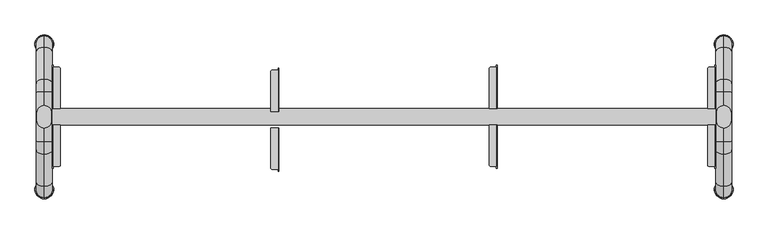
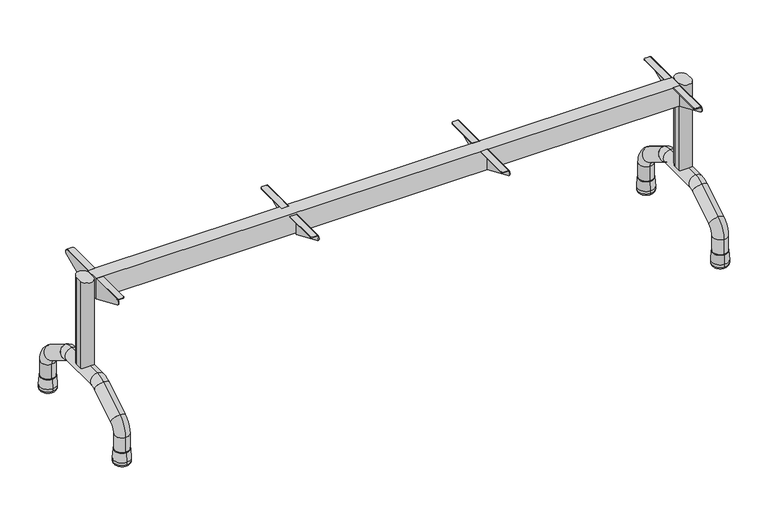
"""IFC4 building model written with IfcOpenShell, lengths in millimetres: furniture geometry, Banco para refeitório : Banco para refeitório 180x30cm cód 40471.6."""

from ifc_helpers import new_model, si_unit, point, frame, frame_2d, origin, place, context, project, spatial, polyline, circle_curve, ellipse_curve, trimmed, segment, composite_curve, outline, extrude, source, transform, mapped, element, save
from ifc_brep_helpers import plane_surface, cylinder_surface, revolved_surface, advanced_brep


def furniture_a52aa003(model_context):
    return source(origin(), model_context, "Body", "SolidModel", [
        extrude(outline(composite_curve([segment(trimmed(circle_curve(frame_2d((-840.0, -9.5)), 18.0), [point((-822.0, -9.5))], [point((-858.0, -9.5))], False, "CARTESIAN"), True, "CONTINUOUS"), segment(polyline([(-858.0, -9.5), (-858.0, 9.5)]), True, "CONTINUOUS"), segment(trimmed(circle_curve(frame_2d((-840.0, 9.5)), 18.0), [point((-858.0, 9.5))], [point((-822.0, 9.5))], False, "CARTESIAN"), True, "CONTINUOUS"), segment(polyline([(-822.0, 9.5), (-822.0, -9.5)]), True, "CONTINUOUS")], self_intersect=False)), frame((0.0, 0.0, 175.0), z_axis=(0.0, 0.0, 1.0), x_axis=(1.0, 0.0, 0.0)), (0.0, 0.0, 1.0), 267.0),
        advanced_brep(
        [(-840.0, -160.0, 43.1183008), (-840.0, -200.0, 43.1183008), (-840.0, -160.0, 86.179057), (-840.0, -200.0, 86.179057), (-840.0, -171.6393713, 137.1589568), (-840.0, -150.5464571, 103.1723569), (-840.0, -71.882227, 151.9932999), (-840.0, -92.9751412, 185.9798998), (-840.0, -61.3357699, 195.0), (-840.0, -61.3357699, 155.0), (-840.0, 61.3357699, 155.0), (-840.0, 61.3357699, 195.0), (-840.0, 160.0, 43.1183008), (-840.0, 200.0, 43.1183008), (-840.0, 92.9751412, 185.9798998), (-840.0, 71.882227, 151.9932999), (-840.0, 150.5464571, 103.1723569), (-840.0, 171.6393713, 137.1589568), (-840.0, 200.0, 86.179057), (-840.0, 160.0, 86.179057)],
        [
            (0, 1, circle_curve(frame((-840.0, -180.0, 43.1183008), z_axis=(0.0, 0.0, -1.0), x_axis=(0.0, -1.0, 0.0)), 20.0)),
            (1, 0, circle_curve(frame((-840.0, -180.0, 43.1183008), z_axis=(0.0, 0.0, -1.0), x_axis=(0.0, -1.0, 0.0)), 20.0)),
            (0, 2),
            (2, 3, circle_curve(frame((-840.0, -180.0, 86.179057), z_axis=(0.0, 0.0, -1.0), x_axis=(0.0, -1.0, 0.0)), 20.0)),
            (3, 1),
            (3, 2, circle_curve(frame((-840.0, -180.0, 86.179057), z_axis=(0.0, 0.0, -1.0), x_axis=(0.0, -1.0, 0.0)), 20.0)),
            (4, 5, circle_curve(frame((-840.0, -161.0929142, 120.1656569), z_axis=(0.0, 0.8496649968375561, 0.5273228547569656), x_axis=(0.0, -0.5273228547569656, 0.8496649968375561)), 20.0)),
            (5, 6),
            (6, 7, circle_curve(frame((-840.0, -82.4286841, 168.9865999), z_axis=(0.0, -0.8496649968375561, -0.5273228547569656), x_axis=(0.0, -0.5273228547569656, 0.8496649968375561)), 20.0)),
            (7, 4),
            (5, 4, circle_curve(frame((-840.0, -161.0929142, 120.1656569), z_axis=(0.0, 0.8496649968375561, 0.5273228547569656), x_axis=(0.0, -0.5273228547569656, 0.8496649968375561)), 20.0)),
            (7, 6, circle_curve(frame((-840.0, -82.4286841, 168.9865999), z_axis=(0.0, -0.8496649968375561, -0.5273228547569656), x_axis=(0.0, -0.5273228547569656, 0.8496649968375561)), 20.0)),
            (8, 9, circle_curve(frame((-840.0, -61.3357699, 175.0), z_axis=(0.0, 1.0, 0.0), x_axis=(0.0, 0.0, 1.0)), 20.0)),
            (9, 10),
            (10, 11, circle_curve(frame((-840.0, 61.3357699, 175.0), z_axis=(0.0, -1.0, 0.0), x_axis=(0.0, 0.0, 1.0)), 20.0)),
            (11, 8),
            (9, 8, circle_curve(frame((-840.0, -61.3357699, 175.0), z_axis=(0.0, 1.0, 0.0), x_axis=(0.0, 0.0, 1.0)), 20.0)),
            (11, 10, circle_curve(frame((-840.0, 61.3357699, 175.0), z_axis=(0.0, -1.0, 0.0), x_axis=(0.0, 0.0, 1.0)), 20.0)),
            (12, 13, circle_curve(frame((-840.0, 180.0, 43.1183008), z_axis=(0.0, 0.0, -1.0), x_axis=(0.0, 1.0, 0.0)), 20.0)),
            (13, 12, circle_curve(frame((-840.0, 180.0, 43.1183008), z_axis=(0.0, 0.0, -1.0), x_axis=(0.0, 1.0, 0.0)), 20.0)),
            (4, 3, circle_curve(frame((-840.0, -140.0, 86.179057), z_axis=(1.0, 0.0, 0.0), x_axis=(0.0, -1.0, 0.0)), 60.0)),
            (2, 5, circle_curve(frame((-840.0, -140.0, 86.179057), z_axis=(-1.0, 0.0, 0.0), x_axis=(0.0, -1.0, 0.0)), 20.0)),
            (8, 7, circle_curve(frame((-840.0, -61.3357699, 135.0), z_axis=(1.0, 0.0, 0.0), x_axis=(0.0, -0.5273228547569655, 0.8496649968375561)), 60.0)),
            (6, 9, circle_curve(frame((-840.0, -61.3357699, 135.0), z_axis=(-1.0, 0.0, 0.0), x_axis=(0.0, -0.5273228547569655, 0.8496649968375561)), 20.0)),
            (14, 11, circle_curve(frame((-840.0, 61.3357699, 135.0), z_axis=(1.0, 0.0, 0.0), x_axis=(0.0, 0.0, 1.0)), 60.0)),
            (10, 15, circle_curve(frame((-840.0, 61.3357699, 135.0), z_axis=(-1.0, 0.0, 0.0), x_axis=(0.0, 0.0, 1.0)), 20.0)),
            (15, 14, circle_curve(frame((-840.0, 82.4286841, 168.9865999), z_axis=(0.0, -0.8496649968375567, 0.5273228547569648), x_axis=(0.0, 0.5273228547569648, 0.8496649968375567)), 20.0)),
            (14, 15, circle_curve(frame((-840.0, 82.4286841, 168.9865999), z_axis=(0.0, -0.8496649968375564, 0.5273228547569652), x_axis=(0.0, 0.5273228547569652, 0.8496649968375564)), 20.0)),
            (15, 16),
            (16, 17, circle_curve(frame((-840.0, 161.0929142, 120.1656569), z_axis=(0.0, -0.849664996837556, 0.5273228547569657), x_axis=(0.0, 0.5273228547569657, 0.849664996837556)), 20.0)),
            (17, 14),
            (17, 16, circle_curve(frame((-840.0, 161.0929142, 120.1656569), z_axis=(0.0, -0.849664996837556, 0.5273228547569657), x_axis=(0.0, 0.5273228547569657, 0.849664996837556)), 20.0)),
            (18, 17, circle_curve(frame((-840.0, 140.0, 86.179057), z_axis=(1.0, 0.0, 0.0), x_axis=(0.0, 0.5273228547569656, 0.849664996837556)), 60.0)),
            (16, 19, circle_curve(frame((-840.0, 140.0, 86.179057), z_axis=(-1.0, 0.0, 0.0), x_axis=(0.0, 0.5273228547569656, 0.849664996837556)), 20.0)),
            (19, 18, circle_curve(frame((-840.0, 180.0, 86.179057), z_axis=(0.0, 0.0, 1.0), x_axis=(0.0, 1.0, 0.0)), 20.0)),
            (18, 19, circle_curve(frame((-840.0, 180.0, 86.179057), z_axis=(0.0, 0.0, 1.0), x_axis=(0.0, 1.0, 0.0)), 20.0)),
            (19, 12),
            (13, 18),
        ],
        [
            plane_surface(frame((-1530.0, -180.0, 43.1183008), z_axis=(0.0, 0.0, -1.0), x_axis=(1.0, 0.0, 0.0))),
            cylinder_surface(frame((-840.0, -180.0, 43.1183008), z_axis=(0.0, 0.0, -1.0), x_axis=(0.0, -1.0, 0.0)), 20.0),
            cylinder_surface(frame((-840.0, -161.0929142, 120.1656569), z_axis=(0.0, -0.8496649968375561, -0.5273228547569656), x_axis=(0.0, -0.5273228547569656, 0.8496649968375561)), 20.0),
            cylinder_surface(frame((-840.0, -61.3357699, 175.0), z_axis=(0.0, -1.0, 0.0), x_axis=(0.0, 0.0, 1.0)), 20.0),
            plane_surface(frame((-1530.0, 180.0, 43.1183008), z_axis=(0.0, 0.0, -1.0), x_axis=(1.0, 0.0, 0.0))),
            revolved_surface(trimmed(ellipse_curve(frame((-840.0, -180.0, 86.179057), z_axis=(0.0, 0.0, -1.0), x_axis=(0.0, -1.0, 0.0)), 20.0, 20.0), [point((-840.0, -160.0, 86.179057))], [point((-840.0, -200.0, 86.179057))], True, "CARTESIAN"), (-1530.0, -140.0, 86.179057), (-1.0, 0.0, 0.0)),
            revolved_surface(trimmed(ellipse_curve(frame((-840.0, -180.0, 86.179057), z_axis=(0.0, 0.0, -1.0), x_axis=(0.0, -1.0, 0.0)), 20.0, 20.0), [point((-840.0, -200.0, 86.179057))], [point((-840.0, -160.0, 86.179057))], True, "CARTESIAN"), (-1530.0, -140.0, 86.179057), (-1.0, 0.0, 0.0)),
            revolved_surface(trimmed(ellipse_curve(frame((-840.0, -82.4286841, 168.9865999), z_axis=(0.0, -0.8496649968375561, -0.5273228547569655), x_axis=(0.0, -0.5273228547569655, 0.8496649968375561)), 20.0, 20.0), [point((-840.0, -71.882227, 151.9932999))], [point((-840.0, -92.9751412, 185.9798998))], True, "CARTESIAN"), (-1530.0, -61.3357699, 135.0), (-1.0, 0.0, 0.0)),
            revolved_surface(trimmed(ellipse_curve(frame((-840.0, -82.4286841, 168.9865999), z_axis=(0.0, -0.8496649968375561, -0.5273228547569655), x_axis=(0.0, -0.5273228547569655, 0.8496649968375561)), 20.0, 20.0), [point((-840.0, -92.9751412, 185.9798998))], [point((-840.0, -71.882227, 151.9932999))], True, "CARTESIAN"), (-1530.0, -61.3357699, 135.0), (-1.0, 0.0, 0.0)),
            revolved_surface(trimmed(ellipse_curve(frame((-840.0, 61.3357699, 175.0), z_axis=(0.0, -1.0, 0.0), x_axis=(0.0, 0.0, 1.0)), 20.0, 20.0), [point((-840.0, 61.3357699, 155.0))], [point((-840.0, 61.3357699, 195.0))], True, "CARTESIAN"), (-1530.0, 61.3357699, 135.0), (-1.0, 0.0, 0.0)),
            revolved_surface(trimmed(ellipse_curve(frame((-840.0, 61.3357699, 175.0), z_axis=(0.0, -1.0, 0.0), x_axis=(0.0, 0.0, 1.0)), 20.0, 20.0), [point((-840.0, 61.3357699, 195.0))], [point((-840.0, 61.3357699, 155.0))], True, "CARTESIAN"), (-1530.0, 61.3357699, 135.0), (-1.0, 0.0, 0.0)),
            cylinder_surface(frame((-840.0, 82.4286841, 168.9865999), z_axis=(0.0, -0.849664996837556, 0.5273228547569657), x_axis=(0.0, 0.5273228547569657, 0.849664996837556)), 20.0),
            revolved_surface(trimmed(ellipse_curve(frame((-840.0, 161.0929142, 120.1656569), z_axis=(0.0, -0.8496649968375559, 0.5273228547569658), x_axis=(0.0, 0.5273228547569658, 0.8496649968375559)), 20.0, 20.0), [point((-840.0, 150.5464571, 103.1723569))], [point((-840.0, 171.6393713, 137.1589568))], True, "CARTESIAN"), (-1530.0, 140.0, 86.179057), (-1.0, 0.0, 0.0)),
            revolved_surface(trimmed(ellipse_curve(frame((-840.0, 161.0929142, 120.1656569), z_axis=(0.0, -0.8496649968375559, 0.5273228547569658), x_axis=(0.0, 0.5273228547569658, 0.8496649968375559)), 20.0, 20.0), [point((-840.0, 171.6393713, 137.1589568))], [point((-840.0, 150.5464571, 103.1723569))], True, "CARTESIAN"), (-1530.0, 140.0, 86.179057), (-1.0, 0.0, 0.0)),
            cylinder_surface(frame((-840.0, 180.0, 86.179057), z_axis=(0.0, 0.0, 1.0), x_axis=(0.0, 1.0, 0.0)), 20.0),
        ],
        [
            (0, [[1, 2]]),
            (1, [[-1, 3, 4, 5]]),
            (1, [[-2, -5, 6, -3]]),
            (2, [[7, 8, 9, 10]]),
            (2, [[11, -10, 12, -8]]),
            (3, [[13, 14, 15, 16]]),
            (3, [[17, -16, 18, -14]]),
            (4, [[19, 20]]),
            (5, [[21, -4, 22, -7]]),
            (6, [[-22, -6, -21, -11]]),
            (7, [[23, -9, 24, -13]]),
            (8, [[-24, -12, -23, -17]]),
            (9, [[25, -15, 26, 27]]),
            (10, [[-26, -18, -25, 28]]),
            (11, [[-27, 29, 30, 31]]),
            (11, [[-28, -31, 32, -29]]),
            (12, [[33, -30, 34, 35]]),
            (13, [[-34, -32, -33, 36]]),
            (14, [[-35, 37, -20, 38]]),
            (14, [[-36, -38, -19, -37]]),
        ],
    ),
        extrude(outline(composite_curve([segment(trimmed(circle_curve(frame_2d((840.0, -9.5)), 18.0), [point((858.0, -9.5))], [point((822.0, -9.5))], False, "CARTESIAN"), True, "CONTINUOUS"), segment(polyline([(822.0, -9.5), (822.0, 9.5)]), True, "CONTINUOUS"), segment(trimmed(circle_curve(frame_2d((840.0, 9.5)), 18.0), [point((822.0, 9.5))], [point((858.0, 9.5))], False, "CARTESIAN"), True, "CONTINUOUS"), segment(polyline([(858.0, 9.5), (858.0, -9.5)]), True, "CONTINUOUS")], self_intersect=False)), frame((0.0, 0.0, 175.0), z_axis=(0.0, 0.0, 1.0), x_axis=(1.0, 0.0, 0.0)), (0.0, 0.0, 1.0), 267.0),
        advanced_brep(
        [(840.0, -160.0, 43.1183008), (840.0, -200.0, 43.1183008), (840.0, -160.0, 86.179057), (840.0, -200.0, 86.179057), (840.0, -171.6393713, 137.1589568), (840.0, -150.5464571, 103.1723569), (840.0, -71.882227, 151.9932999), (840.0, -92.9751412, 185.9798998), (840.0, -61.3357699, 195.0), (840.0, -61.3357699, 155.0), (840.0, 61.3357699, 155.0), (840.0, 61.3357699, 195.0), (840.0, 160.0, 43.1183008), (840.0, 200.0, 43.1183008), (840.0, 92.9751412, 185.9798998), (840.0, 71.882227, 151.9932999), (840.0, 150.5464571, 103.1723569), (840.0, 171.6393713, 137.1589568), (840.0, 200.0, 86.179057), (840.0, 160.0, 86.179057)],
        [
            (0, 1, circle_curve(frame((840.0, -180.0, 43.1183008), z_axis=(0.0, 0.0, -1.0), x_axis=(0.0, -1.0, 0.0)), 20.0)),
            (1, 0, circle_curve(frame((840.0, -180.0, 43.1183008), z_axis=(0.0, 0.0, -1.0), x_axis=(0.0, -1.0, 0.0)), 20.0)),
            (0, 2),
            (2, 3, circle_curve(frame((840.0, -180.0, 86.179057), z_axis=(0.0, 0.0, -1.0), x_axis=(0.0, -1.0, 0.0)), 20.0)),
            (3, 1),
            (3, 2, circle_curve(frame((840.0, -180.0, 86.179057), z_axis=(0.0, 0.0, -1.0), x_axis=(0.0, -1.0, 0.0)), 20.0)),
            (4, 5, circle_curve(frame((840.0, -161.0929142, 120.1656569), z_axis=(0.0, 0.8496649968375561, 0.5273228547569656), x_axis=(0.0, -0.5273228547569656, 0.8496649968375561)), 20.0)),
            (5, 6),
            (6, 7, circle_curve(frame((840.0, -82.4286841, 168.9865999), z_axis=(0.0, -0.8496649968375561, -0.5273228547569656), x_axis=(0.0, -0.5273228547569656, 0.8496649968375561)), 20.0)),
            (7, 4),
            (5, 4, circle_curve(frame((840.0, -161.0929142, 120.1656569), z_axis=(0.0, 0.8496649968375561, 0.5273228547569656), x_axis=(0.0, -0.5273228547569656, 0.8496649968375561)), 20.0)),
            (7, 6, circle_curve(frame((840.0, -82.4286841, 168.9865999), z_axis=(0.0, -0.8496649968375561, -0.5273228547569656), x_axis=(0.0, -0.5273228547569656, 0.8496649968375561)), 20.0)),
            (8, 9, circle_curve(frame((840.0, -61.3357699, 175.0), z_axis=(0.0, 1.0, 0.0), x_axis=(0.0, 0.0, 1.0)), 20.0)),
            (9, 10),
            (10, 11, circle_curve(frame((840.0, 61.3357699, 175.0), z_axis=(0.0, -1.0, 0.0), x_axis=(0.0, 0.0, 1.0)), 20.0)),
            (11, 8),
            (9, 8, circle_curve(frame((840.0, -61.3357699, 175.0), z_axis=(0.0, 1.0, 0.0), x_axis=(0.0, 0.0, 1.0)), 20.0)),
            (11, 10, circle_curve(frame((840.0, 61.3357699, 175.0), z_axis=(0.0, -1.0, 0.0), x_axis=(0.0, 0.0, 1.0)), 20.0)),
            (12, 13, circle_curve(frame((840.0, 180.0, 43.1183008), z_axis=(0.0, 0.0, -1.0), x_axis=(0.0, 1.0, 0.0)), 20.0)),
            (13, 12, circle_curve(frame((840.0, 180.0, 43.1183008), z_axis=(0.0, 0.0, -1.0), x_axis=(0.0, 1.0, 0.0)), 20.0)),
            (4, 3, circle_curve(frame((840.0, -140.0, 86.179057), z_axis=(1.0, 0.0, 0.0), x_axis=(0.0, -1.0, 0.0)), 60.0)),
            (2, 5, circle_curve(frame((840.0, -140.0, 86.179057), z_axis=(-1.0, 0.0, 0.0), x_axis=(0.0, -1.0, 0.0)), 20.0)),
            (8, 7, circle_curve(frame((840.0, -61.3357699, 135.0), z_axis=(1.0, 0.0, 0.0), x_axis=(0.0, -0.5273228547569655, 0.8496649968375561)), 60.0)),
            (6, 9, circle_curve(frame((840.0, -61.3357699, 135.0), z_axis=(-1.0, 0.0, 0.0), x_axis=(0.0, -0.5273228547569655, 0.8496649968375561)), 20.0)),
            (14, 11, circle_curve(frame((840.0, 61.3357699, 135.0), z_axis=(1.0, 0.0, 0.0), x_axis=(0.0, 0.0, 1.0)), 60.0)),
            (10, 15, circle_curve(frame((840.0, 61.3357699, 135.0), z_axis=(-1.0, 0.0, 0.0), x_axis=(0.0, 0.0, 1.0)), 20.0)),
            (15, 14, circle_curve(frame((840.0, 82.4286841, 168.9865999), z_axis=(0.0, -0.8496649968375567, 0.5273228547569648), x_axis=(0.0, 0.5273228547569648, 0.8496649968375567)), 20.0)),
            (14, 15, circle_curve(frame((840.0, 82.4286841, 168.9865999), z_axis=(0.0, -0.8496649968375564, 0.5273228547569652), x_axis=(0.0, 0.5273228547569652, 0.8496649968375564)), 20.0)),
            (15, 16),
            (16, 17, circle_curve(frame((840.0, 161.0929142, 120.1656569), z_axis=(0.0, -0.849664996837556, 0.5273228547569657), x_axis=(0.0, 0.5273228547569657, 0.849664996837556)), 20.0)),
            (17, 14),
            (17, 16, circle_curve(frame((840.0, 161.0929142, 120.1656569), z_axis=(0.0, -0.849664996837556, 0.5273228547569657), x_axis=(0.0, 0.5273228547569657, 0.849664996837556)), 20.0)),
            (18, 17, circle_curve(frame((840.0, 140.0, 86.179057), z_axis=(1.0, 0.0, 0.0), x_axis=(0.0, 0.5273228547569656, 0.849664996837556)), 60.0)),
            (16, 19, circle_curve(frame((840.0, 140.0, 86.179057), z_axis=(-1.0, 0.0, 0.0), x_axis=(0.0, 0.5273228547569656, 0.849664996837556)), 20.0)),
            (19, 18, circle_curve(frame((840.0, 180.0, 86.179057), z_axis=(0.0, 0.0, 1.0), x_axis=(0.0, 1.0, 0.0)), 20.0)),
            (18, 19, circle_curve(frame((840.0, 180.0, 86.179057), z_axis=(0.0, 0.0, 1.0), x_axis=(0.0, 1.0, 0.0)), 20.0)),
            (19, 12),
            (13, 18),
        ],
        [
            plane_surface(frame((150.0, -180.0, 43.1183008), z_axis=(0.0, 0.0, -1.0), x_axis=(1.0, 0.0, 0.0))),
            cylinder_surface(frame((840.0, -180.0, 43.1183008), z_axis=(0.0, 0.0, -1.0), x_axis=(0.0, -1.0, 0.0)), 20.0),
            cylinder_surface(frame((840.0, -161.0929142, 120.1656569), z_axis=(0.0, -0.8496649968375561, -0.5273228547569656), x_axis=(0.0, -0.5273228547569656, 0.8496649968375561)), 20.0),
            cylinder_surface(frame((840.0, -61.3357699, 175.0), z_axis=(0.0, -1.0, 0.0), x_axis=(0.0, 0.0, 1.0)), 20.0),
            plane_surface(frame((150.0, 180.0, 43.1183008), z_axis=(0.0, 0.0, -1.0), x_axis=(1.0, 0.0, 0.0))),
            revolved_surface(trimmed(ellipse_curve(frame((840.0, -180.0, 86.179057), z_axis=(0.0, 0.0, -1.0), x_axis=(0.0, -1.0, 0.0)), 20.0, 20.0), [point((840.0, -160.0, 86.179057))], [point((840.0, -200.0, 86.179057))], True, "CARTESIAN"), (150.0, -140.0, 86.179057), (-1.0, 0.0, 0.0)),
            revolved_surface(trimmed(ellipse_curve(frame((840.0, -180.0, 86.179057), z_axis=(0.0, 0.0, -1.0), x_axis=(0.0, -1.0, 0.0)), 20.0, 20.0), [point((840.0, -200.0, 86.179057))], [point((840.0, -160.0, 86.179057))], True, "CARTESIAN"), (150.0, -140.0, 86.179057), (-1.0, 0.0, 0.0)),
            revolved_surface(trimmed(ellipse_curve(frame((840.0, -82.4286841, 168.9865999), z_axis=(0.0, -0.8496649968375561, -0.5273228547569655), x_axis=(0.0, -0.5273228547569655, 0.8496649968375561)), 20.0, 20.0), [point((840.0, -71.882227, 151.9932999))], [point((840.0, -92.9751412, 185.9798998))], True, "CARTESIAN"), (150.0, -61.3357699, 135.0), (-1.0, 0.0, 0.0)),
            revolved_surface(trimmed(ellipse_curve(frame((840.0, -82.4286841, 168.9865999), z_axis=(0.0, -0.8496649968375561, -0.5273228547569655), x_axis=(0.0, -0.5273228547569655, 0.8496649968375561)), 20.0, 20.0), [point((840.0, -92.9751412, 185.9798998))], [point((840.0, -71.882227, 151.9932999))], True, "CARTESIAN"), (150.0, -61.3357699, 135.0), (-1.0, 0.0, 0.0)),
            revolved_surface(trimmed(ellipse_curve(frame((840.0, 61.3357699, 175.0), z_axis=(0.0, -1.0, 0.0), x_axis=(0.0, 0.0, 1.0)), 20.0, 20.0), [point((840.0, 61.3357699, 155.0))], [point((840.0, 61.3357699, 195.0))], True, "CARTESIAN"), (150.0, 61.3357699, 135.0), (-1.0, 0.0, 0.0)),
            revolved_surface(trimmed(ellipse_curve(frame((840.0, 61.3357699, 175.0), z_axis=(0.0, -1.0, 0.0), x_axis=(0.0, 0.0, 1.0)), 20.0, 20.0), [point((840.0, 61.3357699, 195.0))], [point((840.0, 61.3357699, 155.0))], True, "CARTESIAN"), (150.0, 61.3357699, 135.0), (-1.0, 0.0, 0.0)),
            cylinder_surface(frame((840.0, 82.4286841, 168.9865999), z_axis=(0.0, -0.849664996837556, 0.5273228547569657), x_axis=(0.0, 0.5273228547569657, 0.849664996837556)), 20.0),
            revolved_surface(trimmed(ellipse_curve(frame((840.0, 161.0929142, 120.1656569), z_axis=(0.0, -0.8496649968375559, 0.5273228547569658), x_axis=(0.0, 0.5273228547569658, 0.8496649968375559)), 20.0, 20.0), [point((840.0, 150.5464571, 103.1723569))], [point((840.0, 171.6393713, 137.1589568))], True, "CARTESIAN"), (150.0, 140.0, 86.179057), (-1.0, 0.0, 0.0)),
            revolved_surface(trimmed(ellipse_curve(frame((840.0, 161.0929142, 120.1656569), z_axis=(0.0, -0.8496649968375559, 0.5273228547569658), x_axis=(0.0, 0.5273228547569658, 0.8496649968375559)), 20.0, 20.0), [point((840.0, 171.6393713, 137.1589568))], [point((840.0, 150.5464571, 103.1723569))], True, "CARTESIAN"), (150.0, 140.0, 86.179057), (-1.0, 0.0, 0.0)),
            cylinder_surface(frame((840.0, 180.0, 86.179057), z_axis=(0.0, 0.0, 1.0), x_axis=(0.0, 1.0, 0.0)), 20.0),
        ],
        [
            (0, [[1, 2]]),
            (1, [[-1, 3, 4, 5]]),
            (1, [[-2, -5, 6, -3]]),
            (2, [[7, 8, 9, 10]]),
            (2, [[11, -10, 12, -8]]),
            (3, [[13, 14, 15, 16]]),
            (3, [[17, -16, 18, -14]]),
            (4, [[19, 20]]),
            (5, [[21, -4, 22, -7]]),
            (6, [[-22, -6, -21, -11]]),
            (7, [[23, -9, 24, -13]]),
            (8, [[-24, -12, -23, -17]]),
            (9, [[25, -15, 26, 27]]),
            (10, [[-26, -18, -25, 28]]),
            (11, [[-27, 29, 30, 31]]),
            (11, [[-28, -31, 32, -29]]),
            (12, [[33, -30, 34, 35]]),
            (13, [[-34, -32, -33, 36]]),
            (14, [[-35, 37, -20, 38]]),
            (14, [[-36, -38, -19, -37]]),
        ],
    ),
        advanced_brep(
        [(-840.0, 200.5839249, 42.9792915), (-840.0, 201.212521, 42.3931162), (-840.0, 158.787479, 42.3931162), (-840.0, 159.4160751, 42.9792915), (-840.0, 203.125, 15.0433923), (-840.0, 156.875, 15.0433923), (-840.0, 203.125, 7.2213749), (-840.0, 156.875, 7.2213749), (-840.0, 196.0093092, 0.1056841), (-840.0, 163.9906908, 0.1056841), (-840.0, 180.0, 0.1056841), (-840.0, 180.0, 42.9792915)],
        [
            (0, 1, circle_curve(frame((-840.0, 200.5839249, 42.3491605), z_axis=(-1.0, 0.0, 0.0), x_axis=(0.0, -1.0, 0.0)), 0.630131)),
            (1, 2, circle_curve(frame((-840.0, 180.0, 42.3931162), z_axis=(0.0, 0.0, 1.0), x_axis=(0.0, -1.0, 0.0)), 21.212521)),
            (2, 3, circle_curve(frame((-840.0, 159.4160751, 42.3491605), z_axis=(-1.0, 0.0, 0.0), x_axis=(0.0, 1.0, 0.0)), 0.630131)),
            (3, 0, circle_curve(frame((-840.0, 180.0, 42.9792915), z_axis=(0.0, 0.0, -1.0), x_axis=(0.0, -1.0, 0.0)), 20.5839249)),
            (2, 1, circle_curve(frame((-840.0, 180.0, 42.3931162), z_axis=(0.0, 0.0, 1.0), x_axis=(0.0, -1.0, 0.0)), 21.212521)),
            (0, 3, circle_curve(frame((-840.0, 180.0, 42.9792915), z_axis=(0.0, 0.0, -1.0), x_axis=(0.0, -1.0, 0.0)), 20.5839249)),
            (1, 4),
            (4, 5, circle_curve(frame((-840.0, 180.0, 15.0433923), z_axis=(0.0, 0.0, 1.0), x_axis=(0.0, -1.0, 0.0)), 23.125)),
            (5, 2),
            (5, 4, circle_curve(frame((-840.0, 180.0, 15.0433923), z_axis=(0.0, 0.0, 1.0), x_axis=(0.0, -1.0, 0.0)), 23.125)),
            (4, 6),
            (6, 7, circle_curve(frame((-840.0, 180.0, 7.2213749), z_axis=(0.0, 0.0, 1.0), x_axis=(0.0, -1.0, 0.0)), 23.125)),
            (7, 5),
            (7, 6, circle_curve(frame((-840.0, 180.0, 7.2213749), z_axis=(0.0, 0.0, 1.0), x_axis=(0.0, -1.0, 0.0)), 23.125)),
            (6, 8, circle_curve(frame((-840.0, 196.0093092, 7.2213749), z_axis=(-1.0, 0.0, 0.0), x_axis=(0.0, -1.0, 0.0)), 7.1156908)),
            (8, 9, circle_curve(frame((-840.0, 180.0, 0.1056841), z_axis=(0.0, 0.0, 1.0), x_axis=(0.0, -1.0, 0.0)), 16.0093092)),
            (9, 7, circle_curve(frame((-840.0, 163.9906908, 7.2213749), z_axis=(-1.0, 0.0, 0.0), x_axis=(0.0, 1.0, 0.0)), 7.1156908)),
            (9, 8, circle_curve(frame((-840.0, 180.0, 0.1056841), z_axis=(0.0, 0.0, 1.0), x_axis=(0.0, -1.0, 0.0)), 16.0093092)),
            (8, 10),
            (10, 9),
            (11, 0),
            (3, 11),
        ],
        [
            revolved_surface(trimmed(ellipse_curve(frame((-840.0, 159.4160751, 42.3491605), z_axis=(-1.0, 0.0, 0.0), x_axis=(0.0, 1.0, 0.0)), 0.630131, 0.630131), [point((-840.0, 158.787479, 42.3931162))], [point((-840.0, 159.4160751, 42.9792915))], True, "CARTESIAN"), (-840.0, 180.0, 0.1056841), (0.0, 0.0, 1.0)),
            revolved_surface(polyline([(-840.0, 156.875, 15.0433923), (-840.0, 158.787479, 42.3931162)]), (-840.0, 180.0, 0.1056841), (0.0, 0.0, 1.0)),
            cylinder_surface(frame((-840.0, 180.0, 0.1056841), z_axis=(0.0, 0.0, 1.0), x_axis=(0.0, -1.0, 0.0)), 23.125),
            revolved_surface(trimmed(ellipse_curve(frame((-840.0, 163.9906908, 7.2213749), z_axis=(-1.0, 0.0, 0.0), x_axis=(0.0, 1.0, 0.0)), 7.1156908, 7.1156908), [point((-840.0, 163.9906908, 0.1056841))], [point((-840.0, 156.875, 7.2213749))], True, "CARTESIAN"), (-840.0, 180.0, 0.1056841), (0.0, 0.0, 1.0)),
            plane_surface(frame((-840.0, 180.0, 0.1056841), z_axis=(0.0, 0.0, -1.0), x_axis=(0.0, -1.0, 0.0))),
            plane_surface(frame((-840.0, 180.0, 42.9792915), z_axis=(0.0, 0.0, 1.0), x_axis=(0.0, -1.0, 0.0))),
        ],
        [
            (0, [[1, 2, 3, 4]]),
            (0, [[-3, 5, -1, 6]]),
            (1, [[7, 8, 9, -2]]),
            (1, [[-9, 10, -7, -5]]),
            (2, [[11, 12, 13, -8]]),
            (2, [[-13, 14, -11, -10]]),
            (3, [[15, 16, 17, -12]]),
            (3, [[-17, 18, -15, -14]]),
            (4, [[19, 20, -16]]),
            (4, [[-20, -19, -18]]),
            (5, [[21, -4, 22]]),
            (5, [[-22, -6, -21]]),
        ],
    ),
        advanced_brep(
        [(-840.0, -159.4160751, 42.9792915), (-840.0, -158.787479, 42.3931162), (-840.0, -201.212521, 42.3931162), (-840.0, -200.5839249, 42.9792915), (-840.0, -156.875, 15.0433923), (-840.0, -203.125, 15.0433923), (-840.0, -156.875, 7.2213749), (-840.0, -203.125, 7.2213749), (-840.0, -163.9906908, 0.1056841), (-840.0, -196.0093092, 0.1056841), (-840.0, -180.0, 0.1056841), (-840.0, -180.0, 42.9792915)],
        [
            (0, 1, circle_curve(frame((-840.0, -159.4160751, 42.3491605), z_axis=(-1.0, 0.0, 0.0), x_axis=(0.0, -1.0, 0.0)), 0.630131)),
            (1, 2, circle_curve(frame((-840.0, -180.0, 42.3931162), z_axis=(0.0, 0.0, 1.0), x_axis=(0.0, -1.0, 0.0)), 21.212521)),
            (2, 3, circle_curve(frame((-840.0, -200.5839249, 42.3491605), z_axis=(-1.0, 0.0, 0.0), x_axis=(0.0, 1.0, 0.0)), 0.630131)),
            (3, 0, circle_curve(frame((-840.0, -180.0, 42.9792915), z_axis=(0.0, 0.0, -1.0), x_axis=(0.0, -1.0, 0.0)), 20.5839249)),
            (2, 1, circle_curve(frame((-840.0, -180.0, 42.3931162), z_axis=(0.0, 0.0, 1.0), x_axis=(0.0, -1.0, 0.0)), 21.212521)),
            (0, 3, circle_curve(frame((-840.0, -180.0, 42.9792915), z_axis=(0.0, 0.0, -1.0), x_axis=(0.0, -1.0, 0.0)), 20.5839249)),
            (1, 4),
            (4, 5, circle_curve(frame((-840.0, -180.0, 15.0433923), z_axis=(0.0, 0.0, 1.0), x_axis=(0.0, -1.0, 0.0)), 23.125)),
            (5, 2),
            (5, 4, circle_curve(frame((-840.0, -180.0, 15.0433923), z_axis=(0.0, 0.0, 1.0), x_axis=(0.0, -1.0, 0.0)), 23.125)),
            (4, 6),
            (6, 7, circle_curve(frame((-840.0, -180.0, 7.2213749), z_axis=(0.0, 0.0, 1.0), x_axis=(0.0, -1.0, 0.0)), 23.125)),
            (7, 5),
            (7, 6, circle_curve(frame((-840.0, -180.0, 7.2213749), z_axis=(0.0, 0.0, 1.0), x_axis=(0.0, -1.0, 0.0)), 23.125)),
            (6, 8, circle_curve(frame((-840.0, -163.9906908, 7.2213749), z_axis=(-1.0, 0.0, 0.0), x_axis=(0.0, -1.0, 0.0)), 7.1156908)),
            (8, 9, circle_curve(frame((-840.0, -180.0, 0.1056841), z_axis=(0.0, 0.0, 1.0), x_axis=(0.0, -1.0, 0.0)), 16.0093092)),
            (9, 7, circle_curve(frame((-840.0, -196.0093092, 7.2213749), z_axis=(-1.0, 0.0, 0.0), x_axis=(0.0, 1.0, 0.0)), 7.1156908)),
            (9, 8, circle_curve(frame((-840.0, -180.0, 0.1056841), z_axis=(0.0, 0.0, 1.0), x_axis=(0.0, -1.0, 0.0)), 16.0093092)),
            (8, 10),
            (10, 9),
            (11, 0),
            (3, 11),
        ],
        [
            revolved_surface(trimmed(ellipse_curve(frame((-840.0, -200.5839249, 42.3491605), z_axis=(-1.0, 0.0, 0.0), x_axis=(0.0, 1.0, 0.0)), 0.630131, 0.630131), [point((-840.0, -201.212521, 42.3931162))], [point((-840.0, -200.5839249, 42.9792915))], True, "CARTESIAN"), (-840.0, -180.0, 0.1056841), (0.0, 0.0, 1.0)),
            revolved_surface(polyline([(-840.0, -203.125, 15.0433923), (-840.0, -201.212521, 42.3931162)]), (-840.0, -180.0, 0.1056841), (0.0, 0.0, 1.0)),
            cylinder_surface(frame((-840.0, -180.0, 0.1056841), z_axis=(0.0, 0.0, 1.0), x_axis=(0.0, -1.0, 0.0)), 23.125),
            revolved_surface(trimmed(ellipse_curve(frame((-840.0, -196.0093092, 7.2213749), z_axis=(-1.0, 0.0, 0.0), x_axis=(0.0, 1.0, 0.0)), 7.1156908, 7.1156908), [point((-840.0, -196.0093092, 0.1056841))], [point((-840.0, -203.125, 7.2213749))], True, "CARTESIAN"), (-840.0, -180.0, 0.1056841), (0.0, 0.0, 1.0)),
            plane_surface(frame((-840.0, -180.0, 0.1056841), z_axis=(0.0, 0.0, -1.0), x_axis=(0.0, -1.0, 0.0))),
            plane_surface(frame((-840.0, -180.0, 42.9792915), z_axis=(0.0, 0.0, 1.0), x_axis=(0.0, -1.0, 0.0))),
        ],
        [
            (0, [[1, 2, 3, 4]]),
            (0, [[-3, 5, -1, 6]]),
            (1, [[7, 8, 9, -2]]),
            (1, [[-9, 10, -7, -5]]),
            (2, [[11, 12, 13, -8]]),
            (2, [[-13, 14, -11, -10]]),
            (3, [[15, 16, 17, -12]]),
            (3, [[-17, 18, -15, -14]]),
            (4, [[19, 20, -16]]),
            (4, [[-20, -19, -18]]),
            (5, [[21, -4, 22]]),
            (5, [[-22, -6, -21]]),
        ],
    ),
        advanced_brep(
        [(840.0, 200.5839249, 42.9792915), (840.0, 159.4160751, 42.9792915), (840.0, 158.787479, 42.3931162), (840.0, 201.212521, 42.3931162), (840.0, 156.875, 15.0433923), (840.0, 203.125, 15.0433923), (840.0, 156.875, 7.2213749), (840.0, 203.125, 7.2213749), (840.0, 163.9906908, 0.1056841), (840.0, 196.0093092, 0.1056841), (840.0, 180.0, 0.1056841), (840.0, 180.0, 42.9792915)],
        [
            (0, 1, circle_curve(frame((840.0, 180.0, 42.9792915), z_axis=(0.0, 0.0, -1.0), x_axis=(0.0, -1.0, 0.0)), 20.5839249)),
            (1, 2, circle_curve(frame((840.0, 159.4160751, 42.3491605), z_axis=(1.0, 0.0, 0.0), x_axis=(0.0, 1.0, 0.0)), 0.630131)),
            (2, 3, circle_curve(frame((840.0, 180.0, 42.3931162), z_axis=(0.0, 0.0, 1.0), x_axis=(0.0, -1.0, 0.0)), 21.212521)),
            (3, 0, circle_curve(frame((840.0, 200.5839249, 42.3491605), z_axis=(1.0, 0.0, 0.0), x_axis=(0.0, -1.0, 0.0)), 0.630131)),
            (1, 0, circle_curve(frame((840.0, 180.0, 42.9792915), z_axis=(0.0, 0.0, -1.0), x_axis=(0.0, -1.0, 0.0)), 20.5839249)),
            (3, 2, circle_curve(frame((840.0, 180.0, 42.3931162), z_axis=(0.0, 0.0, 1.0), x_axis=(0.0, -1.0, 0.0)), 21.212521)),
            (2, 4),
            (4, 5, circle_curve(frame((840.0, 180.0, 15.0433923), z_axis=(0.0, 0.0, 1.0), x_axis=(0.0, -1.0, 0.0)), 23.125)),
            (5, 3),
            (5, 4, circle_curve(frame((840.0, 180.0, 15.0433923), z_axis=(0.0, 0.0, 1.0), x_axis=(0.0, -1.0, 0.0)), 23.125)),
            (4, 6),
            (6, 7, circle_curve(frame((840.0, 180.0, 7.2213749), z_axis=(0.0, 0.0, 1.0), x_axis=(0.0, -1.0, 0.0)), 23.125)),
            (7, 5),
            (7, 6, circle_curve(frame((840.0, 180.0, 7.2213749), z_axis=(0.0, 0.0, 1.0), x_axis=(0.0, -1.0, 0.0)), 23.125)),
            (6, 8, circle_curve(frame((840.0, 163.9906908, 7.2213749), z_axis=(1.0, 0.0, 0.0), x_axis=(0.0, 1.0, 0.0)), 7.1156908)),
            (8, 9, circle_curve(frame((840.0, 180.0, 0.1056841), z_axis=(0.0, 0.0, 1.0), x_axis=(0.0, -1.0, 0.0)), 16.0093092)),
            (9, 7, circle_curve(frame((840.0, 196.0093092, 7.2213749), z_axis=(1.0, 0.0, 0.0), x_axis=(0.0, -1.0, 0.0)), 7.1156908)),
            (9, 8, circle_curve(frame((840.0, 180.0, 0.1056841), z_axis=(0.0, 0.0, 1.0), x_axis=(0.0, -1.0, 0.0)), 16.0093092)),
            (8, 10),
            (10, 9),
            (11, 1),
            (0, 11),
        ],
        [
            revolved_surface(trimmed(ellipse_curve(frame((840.0, 159.4160751, 42.3491605), z_axis=(-1.0, 0.0, 0.0), x_axis=(0.0, 1.0, 0.0)), 0.630131, 0.630131), [point((840.0, 158.787479, 42.3931162))], [point((840.0, 159.4160751, 42.9792915))], True, "CARTESIAN"), (840.0, 180.0, 0.1056841), (0.0, 0.0, 1.0)),
            revolved_surface(polyline([(840.0, 156.875, 15.0433923), (840.0, 158.787479, 42.3931162)]), (840.0, 180.0, 0.1056841), (0.0, 0.0, 1.0)),
            cylinder_surface(frame((840.0, 180.0, 0.1056841), z_axis=(0.0, 0.0, 1.0), x_axis=(0.0, -1.0, 0.0)), 23.125),
            revolved_surface(trimmed(ellipse_curve(frame((840.0, 163.9906908, 7.2213749), z_axis=(-1.0, 0.0, 0.0), x_axis=(0.0, 1.0, 0.0)), 7.1156908, 7.1156908), [point((840.0, 163.9906908, 0.1056841))], [point((840.0, 156.875, 7.2213749))], True, "CARTESIAN"), (840.0, 180.0, 0.1056841), (0.0, 0.0, 1.0)),
            plane_surface(frame((840.0, 180.0, 0.1056841), z_axis=(0.0, 0.0, -1.0), x_axis=(0.0, -1.0, 0.0))),
            plane_surface(frame((840.0, 180.0, 42.9792915), z_axis=(0.0, 0.0, 1.0), x_axis=(0.0, -1.0, 0.0))),
        ],
        [
            (0, [[1, 2, 3, 4]]),
            (0, [[5, -4, 6, -2]]),
            (1, [[-3, 7, 8, 9]]),
            (1, [[-6, -9, 10, -7]]),
            (2, [[-8, 11, 12, 13]]),
            (2, [[-10, -13, 14, -11]]),
            (3, [[-12, 15, 16, 17]]),
            (3, [[-14, -17, 18, -15]]),
            (4, [[-16, 19, 20]]),
            (4, [[-18, -20, -19]]),
            (5, [[21, -1, 22]]),
            (5, [[-22, -5, -21]]),
        ],
    ),
        advanced_brep(
        [(840.0, -159.4160751, 42.9792915), (840.0, -200.5839249, 42.9792915), (840.0, -201.212521, 42.3931162), (840.0, -158.787479, 42.3931162), (840.0, -203.125, 15.0433923), (840.0, -156.875, 15.0433923), (840.0, -203.125, 7.2213749), (840.0, -156.875, 7.2213749), (840.0, -196.0093092, 0.1056841), (840.0, -163.9906908, 0.1056841), (840.0, -180.0, 0.1056841), (840.0, -180.0, 42.9792915)],
        [
            (0, 1, circle_curve(frame((840.0, -180.0, 42.9792915), z_axis=(0.0, 0.0, -1.0), x_axis=(0.0, -1.0, 0.0)), 20.5839249)),
            (1, 2, circle_curve(frame((840.0, -200.5839249, 42.3491605), z_axis=(1.0, 0.0, 0.0), x_axis=(0.0, 1.0, 0.0)), 0.630131)),
            (2, 3, circle_curve(frame((840.0, -180.0, 42.3931162), z_axis=(0.0, 0.0, 1.0), x_axis=(0.0, -1.0, 0.0)), 21.212521)),
            (3, 0, circle_curve(frame((840.0, -159.4160751, 42.3491605), z_axis=(1.0, 0.0, 0.0), x_axis=(0.0, -1.0, 0.0)), 0.630131)),
            (1, 0, circle_curve(frame((840.0, -180.0, 42.9792915), z_axis=(0.0, 0.0, -1.0), x_axis=(0.0, -1.0, 0.0)), 20.5839249)),
            (3, 2, circle_curve(frame((840.0, -180.0, 42.3931162), z_axis=(0.0, 0.0, 1.0), x_axis=(0.0, -1.0, 0.0)), 21.212521)),
            (2, 4),
            (4, 5, circle_curve(frame((840.0, -180.0, 15.0433923), z_axis=(0.0, 0.0, 1.0), x_axis=(0.0, -1.0, 0.0)), 23.125)),
            (5, 3),
            (5, 4, circle_curve(frame((840.0, -180.0, 15.0433923), z_axis=(0.0, 0.0, 1.0), x_axis=(0.0, -1.0, 0.0)), 23.125)),
            (4, 6),
            (6, 7, circle_curve(frame((840.0, -180.0, 7.2213749), z_axis=(0.0, 0.0, 1.0), x_axis=(0.0, -1.0, 0.0)), 23.125)),
            (7, 5),
            (7, 6, circle_curve(frame((840.0, -180.0, 7.2213749), z_axis=(0.0, 0.0, 1.0), x_axis=(0.0, -1.0, 0.0)), 23.125)),
            (6, 8, circle_curve(frame((840.0, -196.0093092, 7.2213749), z_axis=(1.0, 0.0, 0.0), x_axis=(0.0, 1.0, 0.0)), 7.1156908)),
            (8, 9, circle_curve(frame((840.0, -180.0, 0.1056841), z_axis=(0.0, 0.0, 1.0), x_axis=(0.0, -1.0, 0.0)), 16.0093092)),
            (9, 7, circle_curve(frame((840.0, -163.9906908, 7.2213749), z_axis=(1.0, 0.0, 0.0), x_axis=(0.0, -1.0, 0.0)), 7.1156908)),
            (9, 8, circle_curve(frame((840.0, -180.0, 0.1056841), z_axis=(0.0, 0.0, 1.0), x_axis=(0.0, -1.0, 0.0)), 16.0093092)),
            (8, 10),
            (10, 9),
            (11, 1),
            (0, 11),
        ],
        [
            revolved_surface(trimmed(ellipse_curve(frame((840.0, -200.5839249, 42.3491605), z_axis=(-1.0, 0.0, 0.0), x_axis=(0.0, 1.0, 0.0)), 0.630131, 0.630131), [point((840.0, -201.212521, 42.3931162))], [point((840.0, -200.5839249, 42.9792915))], True, "CARTESIAN"), (840.0, -180.0, 0.1056841), (0.0, 0.0, 1.0)),
            revolved_surface(polyline([(840.0, -203.125, 15.0433923), (840.0, -201.212521, 42.3931162)]), (840.0, -180.0, 0.1056841), (0.0, 0.0, 1.0)),
            cylinder_surface(frame((840.0, -180.0, 0.1056841), z_axis=(0.0, 0.0, 1.0), x_axis=(0.0, -1.0, 0.0)), 23.125),
            revolved_surface(trimmed(ellipse_curve(frame((840.0, -196.0093092, 7.2213749), z_axis=(-1.0, 0.0, 0.0), x_axis=(0.0, 1.0, 0.0)), 7.1156908, 7.1156908), [point((840.0, -196.0093092, 0.1056841))], [point((840.0, -203.125, 7.2213749))], True, "CARTESIAN"), (840.0, -180.0, 0.1056841), (0.0, 0.0, 1.0)),
            plane_surface(frame((840.0, -180.0, 0.1056841), z_axis=(0.0, 0.0, -1.0), x_axis=(0.0, -1.0, 0.0))),
            plane_surface(frame((840.0, -180.0, 42.9792915), z_axis=(0.0, 0.0, 1.0), x_axis=(0.0, -1.0, 0.0))),
        ],
        [
            (0, [[1, 2, 3, 4]]),
            (0, [[5, -4, 6, -2]]),
            (1, [[-3, 7, 8, 9]]),
            (1, [[-6, -9, 10, -7]]),
            (2, [[-8, 11, 12, 13]]),
            (2, [[-10, -13, 14, -11]]),
            (3, [[-12, 15, 16, 17]]),
            (3, [[-14, -17, 18, -15]]),
            (4, [[-16, 19, 20]]),
            (4, [[-18, -20, -19]]),
            (5, [[21, -1, 22]]),
            (5, [[-22, -5, -21]]),
        ],
    ),
        extrude(outline(composite_curve([segment(polyline([(-262.0, -27.0176362), (-262.0, -130.2831504), (-275.0, -130.2831504)]), True, "CONTINUOUS"), segment(trimmed(circle_curve(frame_2d((-275.0, -125.2831504)), 5.0), [point((-275.0, -130.2831504))], [point((-280.0, -125.2831504))], False, "CARTESIAN"), True, "CONTINUOUS"), segment(polyline([(-280.0, -125.2831504), (-280.0, -27.0176362), (-262.0, -27.0176362)]), True, "CONTINUOUS")], self_intersect=False)), frame((0.0, 0.0, 440.0), z_axis=(0.0, 0.0, 1.0), x_axis=(1.0, 0.0, 0.0)), (0.0, 0.0, 1.0), 2.0),
        extrude(outline(composite_curve([segment(polyline([(-262.0, 12.9823638), (-280.0, 12.9823638), (-280.0, 111.247878)]), True, "CONTINUOUS"), segment(trimmed(circle_curve(frame_2d((-275.0, 111.247878)), 5.0), [point((-280.0, 111.247878))], [point((-275.0, 116.247878))], False, "CARTESIAN"), True, "CONTINUOUS"), segment(polyline([(-275.0, 116.247878), (-262.0, 116.247878), (-262.0, 12.9823638)]), True, "CONTINUOUS")], self_intersect=False)), frame((0.0, 0.0, 440.0), z_axis=(0.0, 0.0, 1.0), x_axis=(1.0, 0.0, 0.0)), (0.0, 0.0, 1.0), 2.0),
        extrude(outline(composite_curve([segment(polyline([(278.0, -20.0), (278.0, -123.2655142), (265.0, -123.2655142)]), True, "CONTINUOUS"), segment(trimmed(circle_curve(frame_2d((265.0, -118.2655142)), 5.0), [point((265.0, -123.2655142))], [point((260.0, -118.2655142))], False, "CARTESIAN"), True, "CONTINUOUS"), segment(polyline([(260.0, -118.2655142), (260.0, -20.0), (278.0, -20.0)]), True, "CONTINUOUS")], self_intersect=False)), frame((0.0, 0.0, 440.0), z_axis=(0.0, 0.0, 1.0), x_axis=(1.0, 0.0, 0.0)), (0.0, 0.0, 1.0), 2.0),
        extrude(outline(composite_curve([segment(polyline([(278.0, 20.0), (260.0, 20.0), (260.0, 118.2655142)]), True, "CONTINUOUS"), segment(trimmed(circle_curve(frame_2d((265.0, 118.2655142)), 5.0), [point((260.0, 118.2655142))], [point((265.0, 123.2655142))], False, "CARTESIAN"), True, "CONTINUOUS"), segment(polyline([(265.0, 123.2655142), (278.0, 123.2655142), (278.0, 20.0)]), True, "CONTINUOUS")], self_intersect=False)), frame((0.0, 0.0, 440.0), z_axis=(0.0, 0.0, 1.0), x_axis=(1.0, 0.0, 0.0)), (0.0, 0.0, 1.0), 2.0),
        extrude(outline(composite_curve([segment(polyline([(20.0, 382.0), (20.0, 442.0), (119.863874, 442.0)]), True, "CONTINUOUS"), segment(trimmed(circle_curve(frame_2d((119.863874, 433.9510336)), 8.0489664), [point((119.863874, 442.0))], [point((123.2655142, 426.6561926))], False, "CARTESIAN"), True, "CONTINUOUS"), segment(polyline([(123.2655142, 426.6561926), (20.0, 382.0)]), True, "CONTINUOUS")], self_intersect=False)), frame((278.0, 0.0, 0.0), z_axis=(1.0, 0.0, 0.0), x_axis=(0.0, 1.0, 0.0)), (0.0, 0.0, 1.0), 2.0),
        extrude(outline(composite_curve([segment(polyline([(-20.0, 382.0), (-123.2655142, 426.6561926)]), True, "CONTINUOUS"), segment(trimmed(circle_curve(frame_2d((-119.863874, 433.9510336)), 8.0489664), [point((-123.2655142, 426.6561926))], [point((-119.863874, 442.0))], False, "CARTESIAN"), True, "CONTINUOUS"), segment(polyline([(-119.863874, 442.0), (-20.0, 442.0), (-20.0, 382.0)]), True, "CONTINUOUS")], self_intersect=False)), frame((278.0, 0.0, 0.0), z_axis=(1.0, 0.0, 0.0), x_axis=(0.0, 1.0, 0.0)), (0.0, 0.0, 1.0), 2.0),
        extrude(outline(composite_curve([segment(polyline([(12.9823638, 382.0), (12.9823638, 442.0), (112.8462378, 442.0)]), True, "CONTINUOUS"), segment(trimmed(circle_curve(frame_2d((112.8462378, 433.9510336)), 8.0489664), [point((112.8462378, 442.0))], [point((116.247878, 426.6561926))], False, "CARTESIAN"), True, "CONTINUOUS"), segment(polyline([(116.247878, 426.6561926), (12.9823638, 382.0)]), True, "CONTINUOUS")], self_intersect=False)), frame((-262.0, 0.0, 0.0), z_axis=(1.0, 0.0, 0.0), x_axis=(0.0, 1.0, 0.0)), (0.0, 0.0, 1.0), 2.0),
        extrude(outline(composite_curve([segment(polyline([(-27.0176362, 382.0), (-130.2831504, 426.6561926)]), True, "CONTINUOUS"), segment(trimmed(circle_curve(frame_2d((-126.8815102, 433.9510336)), 8.0489664), [point((-130.2831504, 426.6561926))], [point((-126.8815102, 442.0))], False, "CARTESIAN"), True, "CONTINUOUS"), segment(polyline([(-126.8815102, 442.0), (-27.0176362, 442.0), (-27.0176362, 382.0)]), True, "CONTINUOUS")], self_intersect=False)), frame((-262.0, 0.0, 0.0), z_axis=(1.0, 0.0, 0.0), x_axis=(0.0, 1.0, 0.0)), (0.0, 0.0, 1.0), 2.0),
        extrude(outline(composite_curve([segment(polyline([(818.0, -20.0), (818.0, -123.2655142), (805.0, -123.2655142)]), True, "CONTINUOUS"), segment(trimmed(circle_curve(frame_2d((805.0, -118.2655142)), 5.0), [point((805.0, -123.2655142))], [point((800.0, -118.2655142))], False, "CARTESIAN"), True, "CONTINUOUS"), segment(polyline([(800.0, -118.2655142), (800.0, -20.0), (818.0, -20.0)]), True, "CONTINUOUS")], self_intersect=False)), frame((0.0, 0.0, 440.0), z_axis=(0.0, 0.0, 1.0), x_axis=(1.0, 0.0, 0.0)), (0.0, 0.0, 1.0), 2.0),
        extrude(outline(composite_curve([segment(polyline([(818.0, 20.0), (800.0, 20.0), (800.0, 118.2655142)]), True, "CONTINUOUS"), segment(trimmed(circle_curve(frame_2d((805.0, 118.2655142)), 5.0), [point((800.0, 118.2655142))], [point((805.0, 123.2655142))], False, "CARTESIAN"), True, "CONTINUOUS"), segment(polyline([(805.0, 123.2655142), (818.0, 123.2655142), (818.0, 20.0)]), True, "CONTINUOUS")], self_intersect=False)), frame((0.0, 0.0, 440.0), z_axis=(0.0, 0.0, 1.0), x_axis=(1.0, 0.0, 0.0)), (0.0, 0.0, 1.0), 2.0),
        extrude(outline(composite_curve([segment(polyline([(-818.0, -20.0), (-800.0, -20.0), (-800.0, -118.2655142)]), True, "CONTINUOUS"), segment(trimmed(circle_curve(frame_2d((-805.0, -118.2655142)), 5.0), [point((-800.0, -118.2655142))], [point((-805.0, -123.2655142))], False, "CARTESIAN"), True, "CONTINUOUS"), segment(polyline([(-805.0, -123.2655142), (-818.0, -123.2655142), (-818.0, -20.0)]), True, "CONTINUOUS")], self_intersect=False)), frame((0.0, 0.0, 440.0), z_axis=(0.0, 0.0, 1.0), x_axis=(1.0, 0.0, 0.0)), (0.0, 0.0, 1.0), 2.0),
        extrude(outline(composite_curve([segment(polyline([(-818.0, 20.0), (-818.0, 123.2655142), (-805.0, 123.2655142)]), True, "CONTINUOUS"), segment(trimmed(circle_curve(frame_2d((-805.0, 118.2655142)), 5.0), [point((-805.0, 123.2655142))], [point((-800.0, 118.2655142))], False, "CARTESIAN"), True, "CONTINUOUS"), segment(polyline([(-800.0, 118.2655142), (-800.0, 20.0), (-818.0, 20.0)]), True, "CONTINUOUS")], self_intersect=False)), frame((0.0, 0.0, 440.0), z_axis=(0.0, 0.0, 1.0), x_axis=(1.0, 0.0, 0.0)), (0.0, 0.0, 1.0), 2.0),
        extrude(outline(composite_curve([segment(polyline([(20.0, 382.0), (20.0, 442.0), (119.863874, 442.0)]), True, "CONTINUOUS"), segment(trimmed(circle_curve(frame_2d((119.863874, 433.9510336)), 8.0489664), [point((119.863874, 442.0))], [point((123.2655142, 426.6561926))], False, "CARTESIAN"), True, "CONTINUOUS"), segment(polyline([(123.2655142, 426.6561926), (20.0, 382.0)]), True, "CONTINUOUS")], self_intersect=False)), frame((-820.0, 0.0, 0.0), z_axis=(1.0, 0.0, 0.0), x_axis=(0.0, 1.0, 0.0)), (0.0, 0.0, 1.0), 2.0),
        extrude(outline(composite_curve([segment(polyline([(-20.0, 382.0), (-123.2655142, 426.6561926)]), True, "CONTINUOUS"), segment(trimmed(circle_curve(frame_2d((-119.863874, 433.9510336)), 8.0489664), [point((-123.2655142, 426.6561926))], [point((-119.863874, 442.0))], False, "CARTESIAN"), True, "CONTINUOUS"), segment(polyline([(-119.863874, 442.0), (-20.0, 442.0), (-20.0, 382.0)]), True, "CONTINUOUS")], self_intersect=False)), frame((-820.0, 0.0, 0.0), z_axis=(1.0, 0.0, 0.0), x_axis=(0.0, 1.0, 0.0)), (0.0, 0.0, 1.0), 2.0),
        extrude(outline(composite_curve([segment(polyline([(20.0, 382.0), (20.0, 442.0), (119.863874, 442.0)]), True, "CONTINUOUS"), segment(trimmed(circle_curve(frame_2d((119.863874, 433.9510336)), 8.0489664), [point((119.863874, 442.0))], [point((123.2655142, 426.6561926))], False, "CARTESIAN"), True, "CONTINUOUS"), segment(polyline([(123.2655142, 426.6561926), (20.0, 382.0)]), True, "CONTINUOUS")], self_intersect=False)), frame((818.0, 0.0, 0.0), z_axis=(1.0, 0.0, 0.0), x_axis=(0.0, 1.0, 0.0)), (0.0, 0.0, 1.0), 2.0),
        extrude(outline(composite_curve([segment(polyline([(-20.0, 382.0), (-123.2655142, 426.6561926)]), True, "CONTINUOUS"), segment(trimmed(circle_curve(frame_2d((-119.863874, 433.9510336)), 8.0489664), [point((-123.2655142, 426.6561926))], [point((-119.863874, 442.0))], False, "CARTESIAN"), True, "CONTINUOUS"), segment(polyline([(-119.863874, 442.0), (-20.0, 442.0), (-20.0, 382.0)]), True, "CONTINUOUS")], self_intersect=False)), frame((818.0, 0.0, 0.0), z_axis=(1.0, 0.0, 0.0), x_axis=(0.0, 1.0, 0.0)), (0.0, 0.0, 1.0), 2.0),
        extrude(outline(polyline([(820.0, -20.0), (-820.0, -20.0), (-820.0, 20.0), (820.0, 20.0), (820.0, -20.0)])), frame((0.0, 0.0, 382.0), z_axis=(0.0, 0.0, 1.0), x_axis=(1.0, 0.0, 0.0)), (0.0, 0.0, 1.0), 60.0),
    ])


if __name__ == "__main__":
    model = new_model("IFC4")
    model_context = context("Model", 3, world=origin())
    ifc_project = project(units=[si_unit("LENGTHUNIT", "METRE", prefix="MILLI")], contexts=[model_context])
    site = spatial("IfcSite", under=ifc_project)
    building = spatial("IfcBuilding", under=site)
    placement = place(None, origin())
    furniture_shape = furniture_a52aa003(model_context)
    element("IfcFurniture", 1, ObjectType="Banco para refeitório : Banco para refeitório 180x30cm cód 40471.6", at=placement, inside=building, context=model_context, shape_type="MappedRepresentation", body=[
        mapped(furniture_shape, transform((0.0, 0.0, 0.0), x_axis=(1.0, 0.0, 0.0), y_axis=(0.0, 1.0, 0.0), z_axis=(0.0, 0.0, 1.0))),
    ])
    save(model, "model.ifc")
